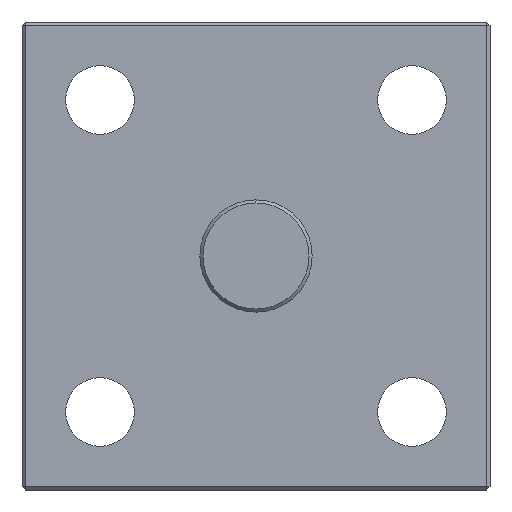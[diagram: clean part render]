
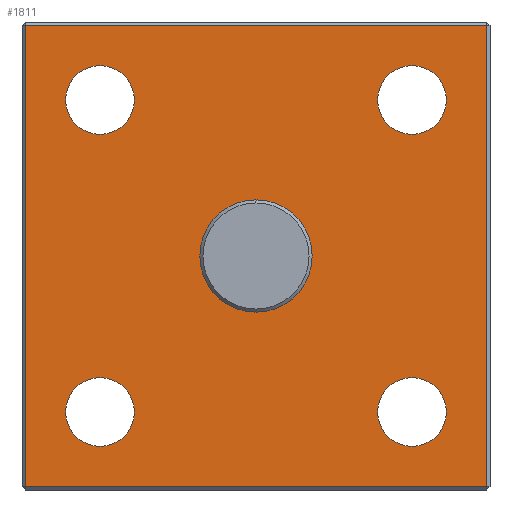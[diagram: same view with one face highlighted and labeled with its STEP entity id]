
A CAD part, left-side view. The second image highlights one B-rep face of the part: STEP entity #1811.
In plain terms, the highlighted planar face has unit normal (-1, 0, 0).
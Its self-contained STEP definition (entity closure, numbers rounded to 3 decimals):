
#3 = DIRECTION ( 'NONE',  ( 1., 0., 0. ) ) ;
#30 = ORIENTED_EDGE ( 'NONE', *, *, #1389, .T. ) ;
#32 = AXIS2_PLACEMENT_3D ( 'NONE', #2156, #730, #2497 ) ;
#69 = VERTEX_POINT ( 'NONE', #1550 ) ;
#83 = ORIENTED_EDGE ( 'NONE', *, *, #808, .T. ) ;
#88 = CIRCLE ( 'NONE', #138, 5.5 ) ;
#117 = VERTEX_POINT ( 'NONE', #2337 ) ;
#137 = CARTESIAN_POINT ( 'NONE',  ( -8., 25., 19.5 ) ) ;
#138 = AXIS2_PLACEMENT_3D ( 'NONE', #2369, #223, #889 ) ;
#158 = LINE ( 'NONE', #2518, #263 ) ;
#214 = ORIENTED_EDGE ( 'NONE', *, *, #1800, .T. ) ;
#223 = DIRECTION ( 'NONE',  ( 1., 0., 0. ) ) ;
#233 = EDGE_CURVE ( 'NONE', #1571, #117, #529, .T. ) ;
#244 = CIRCLE ( 'NONE', #2069, 5.5 ) ;
#248 = CARTESIAN_POINT ( 'NONE',  ( -8., 0., 0. ) ) ;
#259 = DIRECTION ( 'NONE',  ( 0., 0., -1. ) ) ;
#263 = VECTOR ( 'NONE', #2566, 1000. ) ;
#266 = CIRCLE ( 'NONE', #1563, 5.5 ) ;
#334 = FACE_BOUND ( 'NONE', #2579, .T. ) ;
#352 = EDGE_CURVE ( 'NONE', #2446, #69, #266, .T. ) ;
#367 = CARTESIAN_POINT ( 'NONE',  ( -8., 37., 0. ) ) ;
#379 = EDGE_LOOP ( 'NONE', ( #1450, #1568 ) ) ;
#381 = EDGE_CURVE ( 'NONE', #765, #495, #2020, .T. ) ;
#400 = AXIS2_PLACEMENT_3D ( 'NONE', #624, #1668, #1359 ) ;
#405 = ORIENTED_EDGE ( 'NONE', *, *, #1091, .T. ) ;
#436 = AXIS2_PLACEMENT_3D ( 'NONE', #583, #622, #2229 ) ;
#443 = VECTOR ( 'NONE', #1125, 1000. ) ;
#495 = VERTEX_POINT ( 'NONE', #2442 ) ;
#529 = CIRCLE ( 'NONE', #2567, 5.5 ) ;
#548 = VERTEX_POINT ( 'NONE', #1908 ) ;
#572 = CARTESIAN_POINT ( 'NONE',  ( -8., -37., -37. ) ) ;
#575 = EDGE_CURVE ( 'NONE', #1953, #1145, #244, .T. ) ;
#583 = CARTESIAN_POINT ( 'NONE',  ( -8., 25., 25. ) ) ;
#610 = EDGE_CURVE ( 'NONE', #1373, #1583, #88, .T. ) ;
#613 = AXIS2_PLACEMENT_3D ( 'NONE', #248, #1060, #1663 ) ;
#622 = DIRECTION ( 'NONE',  ( 1., 0., 0. ) ) ;
#624 = CARTESIAN_POINT ( 'NONE',  ( -8., -25., -25. ) ) ;
#641 = CARTESIAN_POINT ( 'NONE',  ( -8., -25., 25. ) ) ;
#660 = DIRECTION ( 'NONE',  ( 0., 0., -1. ) ) ;
#684 = PLANE ( 'NONE',  #2137 ) ;
#730 = DIRECTION ( 'NONE',  ( 1., 0., 0. ) ) ;
#746 = VERTEX_POINT ( 'NONE', #2421 ) ;
#765 = VERTEX_POINT ( 'NONE', #1725 ) ;
#767 = CIRCLE ( 'NONE', #400, 5.5 ) ;
#782 = DIRECTION ( 'NONE',  ( 0., 0., -1. ) ) ;
#808 = EDGE_CURVE ( 'NONE', #746, #1310, #1603, .T. ) ;
#849 = DIRECTION ( 'NONE',  ( 1., 0., 0. ) ) ;
#889 = DIRECTION ( 'NONE',  ( 0., 0., -1. ) ) ;
#894 = CIRCLE ( 'NONE', #2503, 9. ) ;
#905 = CIRCLE ( 'NONE', #436, 5.5 ) ;
#909 = LINE ( 'NONE', #367, #1587 ) ;
#921 = ORIENTED_EDGE ( 'NONE', *, *, #352, .T. ) ;
#957 = CARTESIAN_POINT ( 'NONE',  ( -8., -25., 30.5 ) ) ;
#973 = EDGE_CURVE ( 'NONE', #495, #765, #894, .T. ) ;
#986 = LINE ( 'NONE', #1564, #443 ) ;
#1001 = EDGE_LOOP ( 'NONE', ( #2451, #2330 ) ) ;
#1030 = ORIENTED_EDGE ( 'NONE', *, *, #1559, .T. ) ;
#1042 = DIRECTION ( 'NONE',  ( 0., 0., -1. ) ) ;
#1060 = DIRECTION ( 'NONE',  ( 1., 0., 0. ) ) ;
#1070 = FACE_OUTER_BOUND ( 'NONE', #2195, .T. ) ;
#1072 = CIRCLE ( 'NONE', #1743, 5.5 ) ;
#1091 = EDGE_CURVE ( 'NONE', #1145, #1953, #905, .T. ) ;
#1119 = DIRECTION ( 'NONE',  ( 0., -1., 0. ) ) ;
#1125 = DIRECTION ( 'NONE',  ( 0., 1., 0. ) ) ;
#1143 = CARTESIAN_POINT ( 'NONE',  ( -8., 37., 37. ) ) ;
#1144 = EDGE_LOOP ( 'NONE', ( #214, #921 ) ) ;
#1145 = VERTEX_POINT ( 'NONE', #137 ) ;
#1200 = ORIENTED_EDGE ( 'NONE', *, *, #610, .T. ) ;
#1231 = CARTESIAN_POINT ( 'NONE',  ( -8., -25., -30.5 ) ) ;
#1257 = CARTESIAN_POINT ( 'NONE',  ( -8., -25., -19.5 ) ) ;
#1310 = VERTEX_POINT ( 'NONE', #572 ) ;
#1316 = FACE_BOUND ( 'NONE', #379, .T. ) ;
#1330 = CARTESIAN_POINT ( 'NONE',  ( -8., 25., -25. ) ) ;
#1359 = DIRECTION ( 'NONE',  ( 0., 0., -1. ) ) ;
#1368 = EDGE_CURVE ( 'NONE', #117, #1571, #1072, .T. ) ;
#1371 = CARTESIAN_POINT ( 'NONE',  ( -8., 25., 25. ) ) ;
#1373 = VERTEX_POINT ( 'NONE', #1257 ) ;
#1374 = FACE_BOUND ( 'NONE', #1001, .T. ) ;
#1389 = EDGE_CURVE ( 'NONE', #1733, #746, #909, .T. ) ;
#1420 = FACE_BOUND ( 'NONE', #1144, .T. ) ;
#1440 = DIRECTION ( 'NONE',  ( 0., 0., -1. ) ) ;
#1444 = ORIENTED_EDGE ( 'NONE', *, *, #2486, .T. ) ;
#1450 = ORIENTED_EDGE ( 'NONE', *, *, #1368, .T. ) ;
#1458 = EDGE_LOOP ( 'NONE', ( #405, #2397 ) ) ;
#1470 = DIRECTION ( 'NONE',  ( 0., 0., -1. ) ) ;
#1480 = DIRECTION ( 'NONE',  ( 1., 0., 0. ) ) ;
#1550 = CARTESIAN_POINT ( 'NONE',  ( -8., 25., -30.5 ) ) ;
#1559 = EDGE_CURVE ( 'NONE', #1583, #1373, #767, .T. ) ;
#1563 = AXIS2_PLACEMENT_3D ( 'NONE', #1330, #1599, #1470 ) ;
#1564 = CARTESIAN_POINT ( 'NONE',  ( -8., 0., 37. ) ) ;
#1568 = ORIENTED_EDGE ( 'NONE', *, *, #233, .T. ) ;
#1571 = VERTEX_POINT ( 'NONE', #957 ) ;
#1583 = VERTEX_POINT ( 'NONE', #1231 ) ;
#1587 = VECTOR ( 'NONE', #660, 1000. ) ;
#1599 = DIRECTION ( 'NONE',  ( 1., 0., 0. ) ) ;
#1603 = LINE ( 'NONE', #2250, #2040 ) ;
#1643 = CARTESIAN_POINT ( 'NONE',  ( -8., 25., 30.5 ) ) ;
#1663 = DIRECTION ( 'NONE',  ( 0., 0., -1. ) ) ;
#1668 = DIRECTION ( 'NONE',  ( 1., 0., 0. ) ) ;
#1725 = CARTESIAN_POINT ( 'NONE',  ( -8., 0., 9. ) ) ;
#1733 = VERTEX_POINT ( 'NONE', #1143 ) ;
#1743 = AXIS2_PLACEMENT_3D ( 'NONE', #2432, #2041, #1440 ) ;
#1756 = CARTESIAN_POINT ( 'NONE',  ( -8., 0., 0. ) ) ;
#1800 = EDGE_CURVE ( 'NONE', #69, #2446, #2099, .T. ) ;
#1811 = ADVANCED_FACE ( 'NONE', ( #1070, #1374, #334, #1316, #1991, #1420 ), #684, .F. ) ;
#1872 = ORIENTED_EDGE ( 'NONE', *, *, #2499, .T. ) ;
#1908 = CARTESIAN_POINT ( 'NONE',  ( -8., -37., 37. ) ) ;
#1953 = VERTEX_POINT ( 'NONE', #1643 ) ;
#1991 = FACE_BOUND ( 'NONE', #1458, .T. ) ;
#2020 = CIRCLE ( 'NONE', #613, 9. ) ;
#2040 = VECTOR ( 'NONE', #1119, 1000. ) ;
#2041 = DIRECTION ( 'NONE',  ( 1., 0., 0. ) ) ;
#2069 = AXIS2_PLACEMENT_3D ( 'NONE', #1371, #3, #2154 ) ;
#2099 = CIRCLE ( 'NONE', #32, 5.5 ) ;
#2108 = DIRECTION ( 'NONE',  ( 1., 0., 0. ) ) ;
#2133 = CARTESIAN_POINT ( 'NONE',  ( -8., 25., -19.5 ) ) ;
#2137 = AXIS2_PLACEMENT_3D ( 'NONE', #2239, #2108, #259 ) ;
#2154 = DIRECTION ( 'NONE',  ( 0., 0., -1. ) ) ;
#2156 = CARTESIAN_POINT ( 'NONE',  ( -8., 25., -25. ) ) ;
#2195 = EDGE_LOOP ( 'NONE', ( #30, #83, #1872, #1444 ) ) ;
#2229 = DIRECTION ( 'NONE',  ( 0., 0., -1. ) ) ;
#2239 = CARTESIAN_POINT ( 'NONE',  ( -8., 0., 0. ) ) ;
#2250 = CARTESIAN_POINT ( 'NONE',  ( -8., 0., -37. ) ) ;
#2330 = ORIENTED_EDGE ( 'NONE', *, *, #381, .T. ) ;
#2337 = CARTESIAN_POINT ( 'NONE',  ( -8., -25., 19.5 ) ) ;
#2369 = CARTESIAN_POINT ( 'NONE',  ( -8., -25., -25. ) ) ;
#2397 = ORIENTED_EDGE ( 'NONE', *, *, #575, .T. ) ;
#2421 = CARTESIAN_POINT ( 'NONE',  ( -8., 37., -37. ) ) ;
#2432 = CARTESIAN_POINT ( 'NONE',  ( -8., -25., 25. ) ) ;
#2442 = CARTESIAN_POINT ( 'NONE',  ( -8., 0., -9. ) ) ;
#2446 = VERTEX_POINT ( 'NONE', #2133 ) ;
#2451 = ORIENTED_EDGE ( 'NONE', *, *, #973, .T. ) ;
#2486 = EDGE_CURVE ( 'NONE', #548, #1733, #986, .T. ) ;
#2497 = DIRECTION ( 'NONE',  ( 0., 0., -1. ) ) ;
#2499 = EDGE_CURVE ( 'NONE', #1310, #548, #158, .T. ) ;
#2503 = AXIS2_PLACEMENT_3D ( 'NONE', #1756, #1480, #782 ) ;
#2518 = CARTESIAN_POINT ( 'NONE',  ( -8., -37., 0. ) ) ;
#2566 = DIRECTION ( 'NONE',  ( 0., 0., 1. ) ) ;
#2567 = AXIS2_PLACEMENT_3D ( 'NONE', #641, #849, #1042 ) ;
#2579 = EDGE_LOOP ( 'NONE', ( #1030, #1200 ) ) ;
